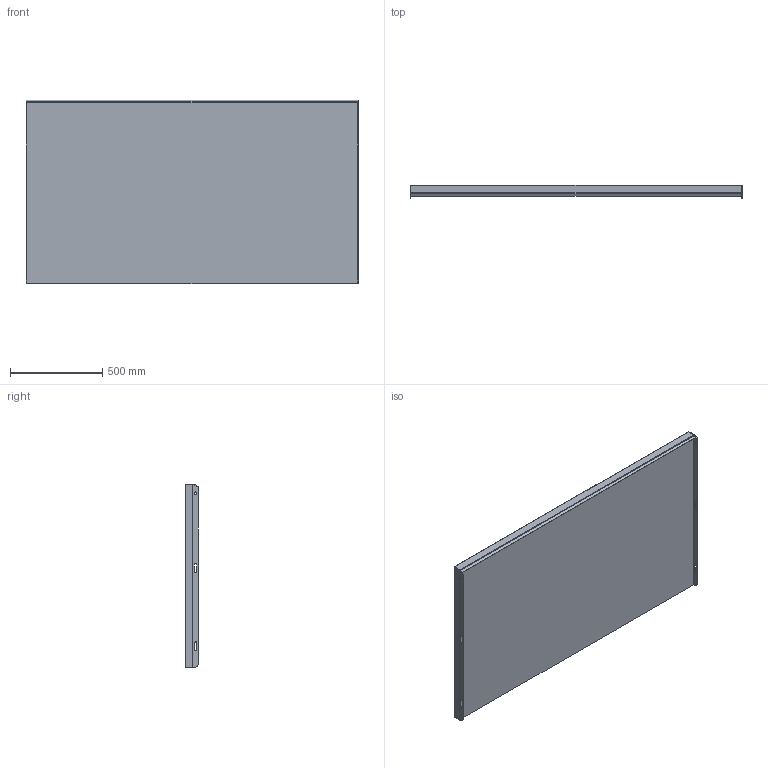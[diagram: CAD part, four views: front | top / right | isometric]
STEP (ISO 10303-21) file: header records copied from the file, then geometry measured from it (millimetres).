
FILE_DESCRIPTION (( 'STEP AP203' ), '1' );
FILE_NAME ('148818101, Plan TH6, 1800x1000, vfz.STEP', '2020-10-21T13:25:55', ( '' ), ( '' ), 'SwSTEP 2.0', 'SolidWorks 2019', '' );
FILE_SCHEMA (( 'CONFIG_CONTROL_DESIGN' ));
Length unit declared in the file: millimetre
Products named in the file (4): SW0000041814; SW0000041407; 148818101, Plan TH6, 1800x1000, vfz; SW0000041759
Assembly tree (4 placements, depth 2):
  148818101, Plan TH6, 1800x1000, vfz
    SW0000041814
    SW0000041407  x2
    SW0000041759
Bounding box: 1800 x 70 x 997 mm (x, y, z)
Volume: 72060462.1 mm3; surface area: 4302434.6 mm2
Topology: 4 solids, 4 shells, 69 faces, 172 edges, 112 vertices
Faces by surface type: plane 49, cylinder 20
Entity records: 1868 total; most frequent: DIRECTION 252, CARTESIAN_POINT 250, ORIENTED_EDGE 236, EDGE_CURVE 118, VECTOR 96, LINE 96, AXIS2_PLACEMENT_3D 78, VERTEX_POINT 76
